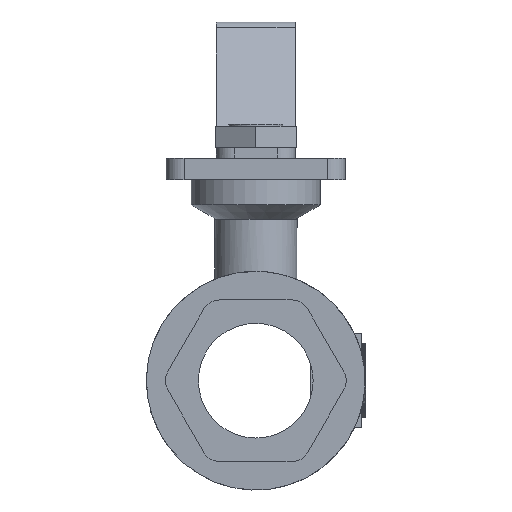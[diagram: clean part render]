
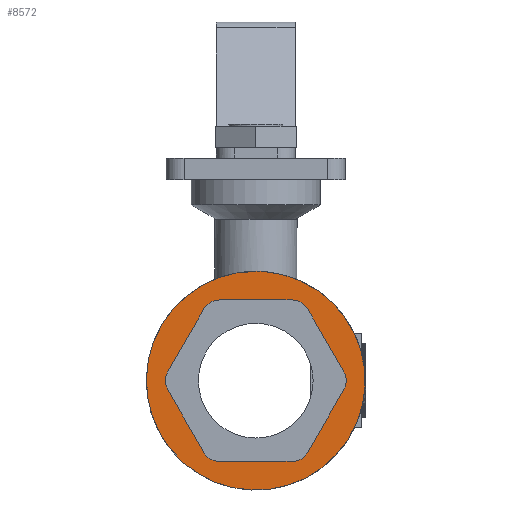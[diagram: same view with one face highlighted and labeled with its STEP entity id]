
A CAD part, front view. The second image highlights one B-rep face of the part: STEP entity #8572.
In plain terms, the highlighted planar face has unit normal (0, -1, 0).
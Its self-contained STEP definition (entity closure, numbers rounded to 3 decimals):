
#8572=ADVANCED_FACE('',(#15203,#15205),#15207,.T.);
#15203=FACE_BOUND('',#15204,.T.);
#15204=EDGE_LOOP('',(#20646,#20647));
#15205=FACE_BOUND('',#15206,.T.);
#15206=EDGE_LOOP('',(#20648,#20649,#20650,#20651,#20652,#20653,#20654,#20655,#20656,
#20657,#20658,#20659));
#15207=PLANE('',#15208);
#15208=AXIS2_PLACEMENT_3D('',#15209,#15210,#15211);
#15209=CARTESIAN_POINT('',(1529.919,1760.712,-4.189));
#15210=DIRECTION('',(0.,-1.,0.));
#15211=DIRECTION('',(1.,0.,0.));
#20646=ORIENTED_EDGE('',*,*,#23379,.F.);
#20647=ORIENTED_EDGE('',*,*,#23380,.F.);
#20648=ORIENTED_EDGE('',*,*,#23375,.T.);
#20649=ORIENTED_EDGE('',*,*,#23218,.F.);
#20650=ORIENTED_EDGE('',*,*,#23222,.T.);
#20651=ORIENTED_EDGE('',*,*,#23249,.F.);
#20652=ORIENTED_EDGE('',*,*,#23376,.T.);
#20653=ORIENTED_EDGE('',*,*,#23246,.F.);
#20654=ORIENTED_EDGE('',*,*,#23244,.T.);
#20655=ORIENTED_EDGE('',*,*,#23242,.F.);
#20656=ORIENTED_EDGE('',*,*,#23377,.T.);
#20657=ORIENTED_EDGE('',*,*,#23239,.F.);
#20658=ORIENTED_EDGE('',*,*,#23237,.T.);
#20659=ORIENTED_EDGE('',*,*,#23235,.F.);
#23218=EDGE_CURVE('',#27648,#27650,#27651,.F.);
#23222=EDGE_CURVE('',#27648,#27655,#27657,.T.);
#23235=EDGE_CURVE('',#27679,#27681,#27682,.F.);
#23237=EDGE_CURVE('',#27684,#27681,#27685,.T.);
#23239=EDGE_CURVE('',#27684,#27687,#27688,.F.);
#23242=EDGE_CURVE('',#27690,#27692,#27693,.F.);
#23244=EDGE_CURVE('',#27695,#27692,#27696,.T.);
#23246=EDGE_CURVE('',#27695,#27698,#27699,.F.);
#23249=EDGE_CURVE('',#27701,#27655,#27703,.F.);
#23375=EDGE_CURVE('',#27679,#27650,#27917,.T.);
#23376=EDGE_CURVE('',#27701,#27698,#27918,.T.);
#23377=EDGE_CURVE('',#27690,#27687,#27919,.T.);
#23379=EDGE_CURVE('',#27921,#27922,#27923,.T.);
#23380=EDGE_CURVE('',#27922,#27921,#27924,.T.);
#27648=VERTEX_POINT('',#37341);
#27650=VERTEX_POINT('',#37345);
#27651=CIRCLE('',#37346,5.);
#27655=VERTEX_POINT('',#37357);
#27657=LINE('',#37361,#37362);
#27679=VERTEX_POINT('',#37413);
#27681=VERTEX_POINT('',#37417);
#27682=CIRCLE('',#37418,5.);
#27684=VERTEX_POINT('',#37425);
#27685=LINE('',#37426,#37427);
#27687=VERTEX_POINT('',#37432);
#27688=CIRCLE('',#37433,5.);
#27690=VERTEX_POINT('',#37440);
#27692=VERTEX_POINT('',#37444);
#27693=CIRCLE('',#37445,5.);
#27695=VERTEX_POINT('',#37452);
#27696=LINE('',#37453,#37454);
#27698=VERTEX_POINT('',#37459);
#27699=CIRCLE('',#37460,5.);
#27701=VERTEX_POINT('',#37467);
#27703=CIRCLE('',#37471,5.);
#27917=LINE('',#38300,#38301);
#27918=LINE('',#38303,#38304);
#27919=LINE('',#38306,#38307);
#27921=VERTEX_POINT('',#38313);
#27922=VERTEX_POINT('',#38314);
#27923=CIRCLE('',#38315,30.5);
#27924=CIRCLE('',#38319,30.5);
#37341=CARTESIAN_POINT('',(1544.362,1760.712,-14.673));
#37345=CARTESIAN_POINT('',(1540.032,1760.712,-12.173));
#37346=AXIS2_PLACEMENT_3D('',#37347,#37348,#37349);
#37347=CARTESIAN_POINT('',(1540.032,1760.712,-17.173));
#37348=DIRECTION('',(0.,1.,0.));
#37349=DIRECTION('',(0.,0.,1.));
#37357=CARTESIAN_POINT('',(1554.476,1760.712,-32.189));
#37361=CARTESIAN_POINT('',(1544.362,1760.712,-14.673));
#37362=VECTOR('',#37363,1.);
#37363=DIRECTION('',(0.5,0.,-0.866));
#37413=CARTESIAN_POINT('',(1519.806,1760.712,-12.173));
#37417=CARTESIAN_POINT('',(1515.476,1760.712,-14.673));
#37418=AXIS2_PLACEMENT_3D('',#37419,#37420,#37421);
#37419=CARTESIAN_POINT('',(1519.806,1760.712,-17.173));
#37420=DIRECTION('',(0.,1.,0.));
#37421=DIRECTION('',(-0.866,0.,0.5));
#37425=CARTESIAN_POINT('',(1505.362,1760.712,-32.189));
#37426=CARTESIAN_POINT('',(1505.362,1760.712,-32.189));
#37427=VECTOR('',#37428,1.);
#37428=DIRECTION('',(0.5,0.,0.866));
#37432=CARTESIAN_POINT('',(1505.362,1760.712,-37.189));
#37433=AXIS2_PLACEMENT_3D('',#37434,#37435,#37436);
#37434=CARTESIAN_POINT('',(1509.692,1760.712,-34.689));
#37435=DIRECTION('',(0.,1.,0.));
#37436=DIRECTION('',(-0.866,0.,-0.5));
#37440=CARTESIAN_POINT('',(1515.476,1760.712,-54.706));
#37444=CARTESIAN_POINT('',(1519.806,1760.712,-57.206));
#37445=AXIS2_PLACEMENT_3D('',#37446,#37447,#37448);
#37446=CARTESIAN_POINT('',(1519.806,1760.712,-52.206));
#37447=DIRECTION('',(0.,1.,0.));
#37448=DIRECTION('',(0.,0.,-1.));
#37452=CARTESIAN_POINT('',(1540.032,1760.712,-57.206));
#37453=CARTESIAN_POINT('',(1540.032,1760.712,-57.206));
#37454=VECTOR('',#37455,1.);
#37455=DIRECTION('',(-1.,0.,0.));
#37459=CARTESIAN_POINT('',(1544.362,1760.712,-54.706));
#37460=AXIS2_PLACEMENT_3D('',#37461,#37462,#37463);
#37461=CARTESIAN_POINT('',(1540.032,1760.712,-52.206));
#37462=DIRECTION('',(0.,1.,0.));
#37463=DIRECTION('',(0.866,0.,-0.5));
#37467=CARTESIAN_POINT('',(1554.476,1760.712,-37.189));
#37471=AXIS2_PLACEMENT_3D('',#37472,#37473,#37474);
#37472=CARTESIAN_POINT('',(1550.145,1760.712,-34.689));
#37473=DIRECTION('',(0.,1.,0.));
#37474=DIRECTION('',(0.866,0.,0.5));
#38300=CARTESIAN_POINT('',(1519.806,1760.712,-12.173));
#38301=VECTOR('',#38302,1.);
#38302=DIRECTION('',(1.,0.,0.));
#38303=CARTESIAN_POINT('',(1554.476,1760.712,-37.189));
#38304=VECTOR('',#38305,1.);
#38305=DIRECTION('',(-0.5,0.,-0.866));
#38306=CARTESIAN_POINT('',(1515.476,1760.712,-54.706));
#38307=VECTOR('',#38308,1.);
#38308=DIRECTION('',(-0.5,0.,0.866));
#38313=CARTESIAN_POINT('',(1532.271,1760.712,-4.28));
#38314=CARTESIAN_POINT('',(1529.919,1760.712,-4.189));
#38315=AXIS2_PLACEMENT_3D('',#38316,#38317,#38318);
#38316=CARTESIAN_POINT('',(1529.919,1760.712,-34.689));
#38317=DIRECTION('',(0.,1.,0.));
#38318=DIRECTION('',(0.077,0.,0.997));
#38319=AXIS2_PLACEMENT_3D('',#38320,#38321,#38322);
#38320=CARTESIAN_POINT('',(1529.919,1760.712,-34.689));
#38321=DIRECTION('',(0.,1.,0.));
#38322=DIRECTION('',(0.,0.,1.));
